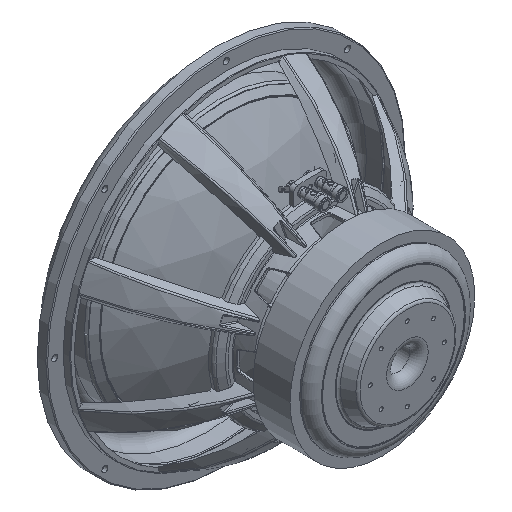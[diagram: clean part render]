
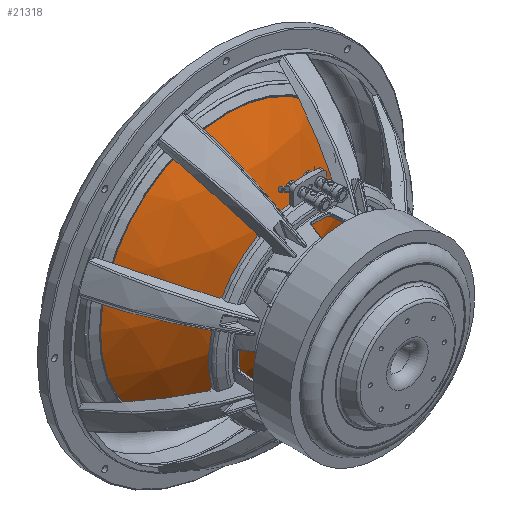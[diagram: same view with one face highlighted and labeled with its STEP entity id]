
A CAD part, isometric view. The second image highlights one B-rep face of the part: STEP entity #21318.
In plain terms, the highlighted spherical face has radius 251.063 mm.
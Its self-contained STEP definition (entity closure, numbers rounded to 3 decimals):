
#55=SPHERICAL_SURFACE('',#23378,251.063);
#113=FACE_BOUND('',#6398,.T.);
#5066=FACE_OUTER_BOUND('',#6397,.T.);
#6397=EDGE_LOOP('',(#17175));
#6398=EDGE_LOOP('',(#17176));
#7443=CIRCLE('',#22544,18.054);
#7938=CIRCLE('',#23376,136.966);
#8719=VERTEX_POINT('',#45830);
#9369=VERTEX_POINT('',#62643);
#11140=EDGE_CURVE('',#8719,#8719,#7443,.T.);
#12179=EDGE_CURVE('',#9369,#9369,#7938,.T.);
#17175=ORIENTED_EDGE('',*,*,#12179,.F.);
#17176=ORIENTED_EDGE('',*,*,#11140,.T.);
#21318=ADVANCED_FACE('',(#5066,#113),#55,.T.);
#22544=AXIS2_PLACEMENT_3D('',#45831,#25443,#25444);
#23376=AXIS2_PLACEMENT_3D('',#62644,#27293,#27294);
#23378=AXIS2_PLACEMENT_3D('',#62646,#27297,#27298);
#25443=DIRECTION('center_axis',(0.,1.,0.));
#25444=DIRECTION('ref_axis',(0.,0.,-1.));
#27293=DIRECTION('center_axis',(0.,1.,0.));
#27294=DIRECTION('ref_axis',(1.,0.,0.));
#27297=DIRECTION('center_axis',(0.,0.,1.));
#27298=DIRECTION('ref_axis',(1.,0.,0.));
#45830=CARTESIAN_POINT('',(18.054,25.,0.));
#45831=CARTESIAN_POINT('Origin',(0.,25.,0.));
#62643=CARTESIAN_POINT('',(-136.966,65.002,0.192));
#62644=CARTESIAN_POINT('Origin',(0.,65.002,0.));
#62646=CARTESIAN_POINT('Origin',(0.,275.413,0.));
